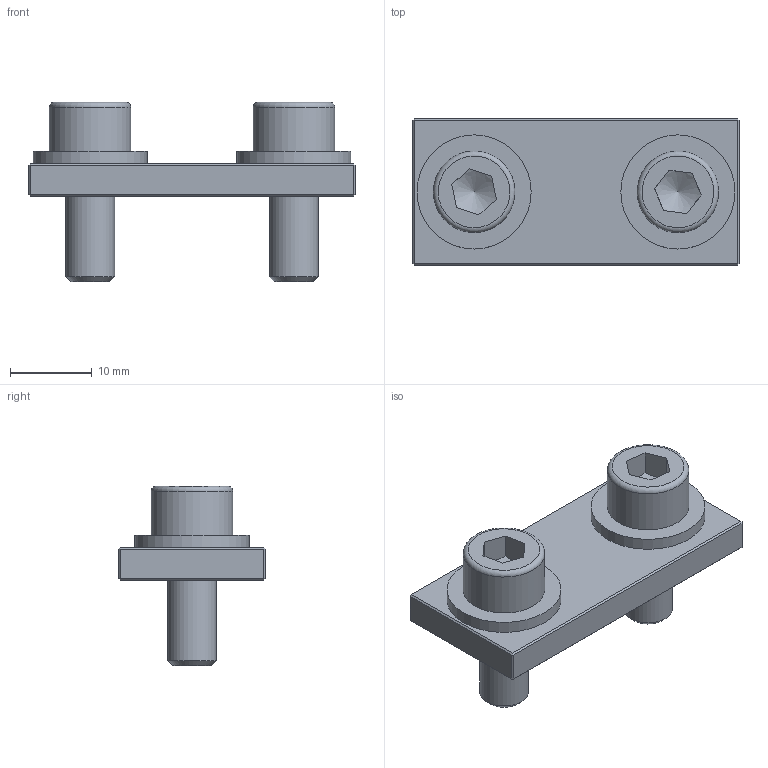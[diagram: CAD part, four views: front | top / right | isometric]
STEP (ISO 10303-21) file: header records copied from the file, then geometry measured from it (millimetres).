
FILE_DESCRIPTION((''),'2;1');
FILE_NAME('H:\3D-Entwürfe\Befestigungsteile\3D Modelle andere Formate\A\STEP\A20.stp','2010-03-02T13:20:53',('karin.hoppmann'),(''),'Autodesk Inventor 2009','Autodesk Inventor 2009','');
FILE_SCHEMA(('AUTOMOTIVE_DESIGN { 1 0 10303 214 1 1 1 1 }'));
Length unit declared in the file: millimetre
Products named in the file (4): A20; DIN EN ISO 4762 M6 x 16; DIN 6796 6
Assembly tree (5 placements, depth 2):
  A20
    A20
    DIN EN ISO 4762 M6 x 16  x2
    DIN 6796 6  x2
Bounding box: 40 x 18 x 22 mm (x, y, z)
Volume: 4659.2 mm3; surface area: 3954.5 mm2
Topology: 5 solids, 5 shells, 70 faces, 140 edges, 82 vertices
Faces by surface type: plane 48, cone 8, cylinder 8, bspline 4, torus 2
Full cylindrical faces by diameter (mm): 6 x2, 6.4 x2, 10 x2, 14 x2
Entity records: 1378 total; most frequent: CARTESIAN_POINT 290, DIRECTION 212, ORIENTED_EDGE 170, EDGE_CURVE 85, AXIS2_PLACEMENT_3D 76, EDGE_LOOP 72, VECTOR 60, LINE 60
